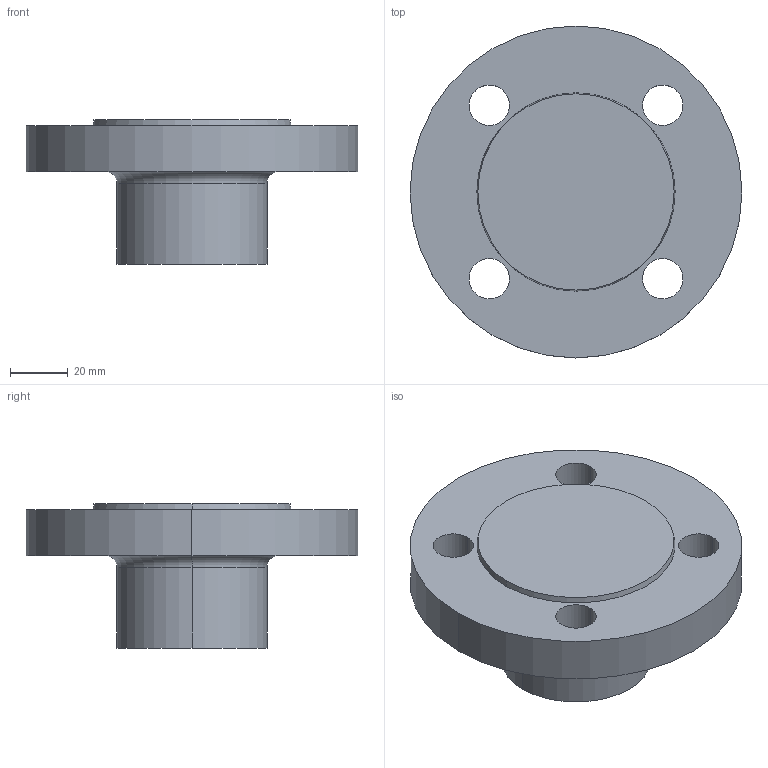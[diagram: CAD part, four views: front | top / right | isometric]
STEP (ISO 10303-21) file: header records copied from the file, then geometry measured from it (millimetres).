
FILE_DESCRIPTION (( 'STEP AP214' ), '1' );
FILE_NAME ('PN40 DN25 Type 21(i) - Type B Face.STEP', '2018-12-29T20:21:31', ( '' ), ( '' ), 'SwSTEP 2.0', 'SolidWorks 2019', '' );
FILE_SCHEMA (( 'AUTOMOTIVE_DESIGN' ));
Length unit declared in the file: millimetre
Products named in the file (1): PN40 DN25 Type 21(i) - Type B Face
Bounding box: 115 x 115 x 50 mm (x, y, z)
Volume: 232216.3 mm3; surface area: 33452.3 mm2
Topology: 1 solids, 1 shells, 20 faces, 46 edges, 30 vertices
Faces by surface type: cylinder 12, plane 4, torus 2, cone 2
Entity records: 636 total; most frequent: DIRECTION 120, CARTESIAN_POINT 97, ORIENTED_EDGE 92, AXIS2_PLACEMENT_3D 53, EDGE_CURVE 46, CIRCLE 32, VERTEX_POINT 30, EDGE_LOOP 30
